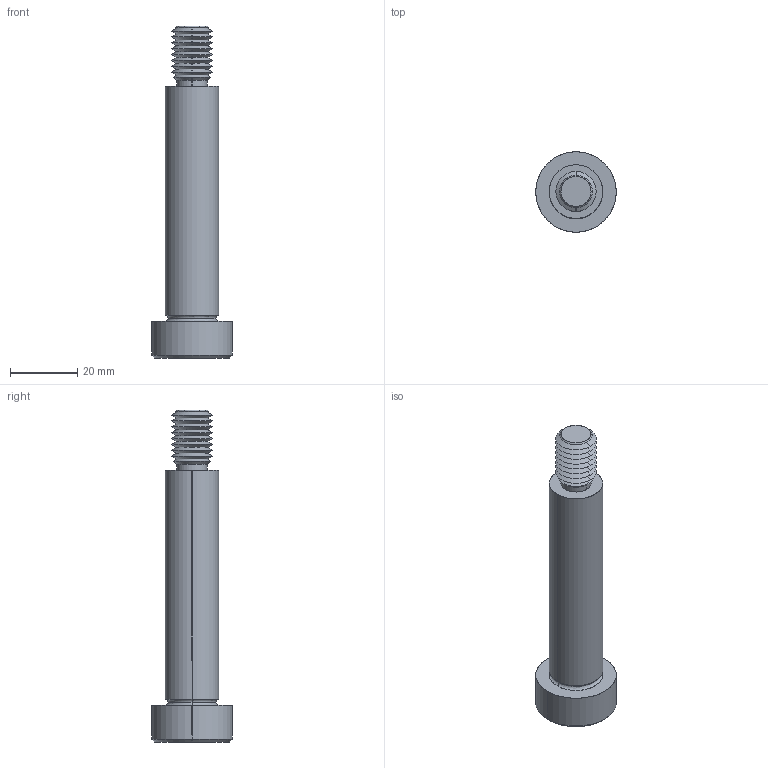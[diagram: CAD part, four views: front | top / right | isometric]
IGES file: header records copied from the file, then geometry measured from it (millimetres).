
Start section: SolidWorks IGES file using analytic representation for surfaces
Global section: file name: C:\Users\IanO\Documents\Temp Folder\GENERAL\SCREW REVISION\P0130_v2\P0130.T5_v2_20220106_IGES\P0130.160-070-T5.igs; native system: SolidWorks 2019; preprocessor: SolidWorks 2019; author: IanO; date: 220106.225641; units: millimetre
Bounding box: 24 x 24 x 99 mm (x, y, z)
Surface area: 6565.1 mm2 (no closed solid volume)
Topology: 0 solids, 0 shells, 76 faces, 588 edges, 586 vertices
Faces by surface type: revolution 56, bspline 20
